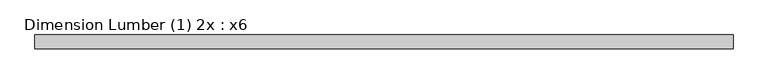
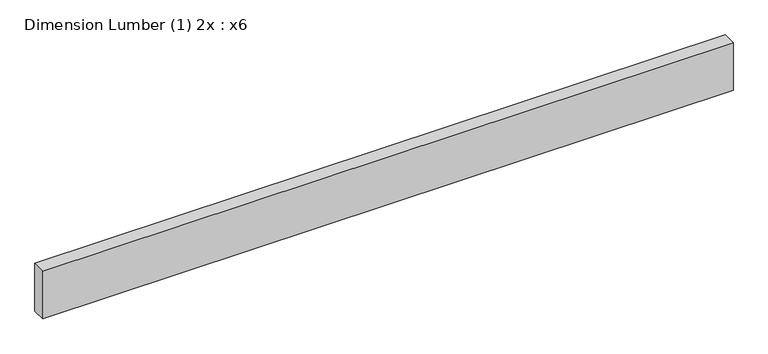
"""IFC4 building model written with IfcOpenShell, lengths in millimetres: beam geometry, Dimension Lumber (1) 2x : x6."""

from ifc_helpers import new_model, si_unit, frame, origin, place, context, project, spatial, polyline, outline, extrude, source, transform, mapped, element, save


def dimension_lumber_1_2x_x6_dd3bafa6(model_context):
    return source(origin(), model_context, "Body", "SweptSolid", [
        extrude(outline(polyline([(958.85, 19.05), (958.85, -19.05), (-958.85, -19.05), (-958.85, 19.05), (958.85, 19.05)])), frame((0.0, 0.0, -69.85), z_axis=(0.0, 0.0, 1.0), x_axis=(1.0, 0.0, 0.0)), (0.0, 0.0, 1.0), 139.7),
    ])


if __name__ == "__main__":
    model = new_model("IFC4")
    model_context = context("Model", 3, world=origin())
    ifc_project = project(units=[si_unit("LENGTHUNIT", "METRE", prefix="MILLI")], contexts=[model_context])
    site = spatial("IfcSite", under=ifc_project)
    building = spatial("IfcBuilding", under=site)
    placement = place(None, origin())
    dimension_lumber_1_2x_x6_shape = dimension_lumber_1_2x_x6_dd3bafa6(model_context)
    element("IfcBeam", 1, ObjectType="Dimension Lumber (1) 2x : x6", at=placement, inside=building, context=model_context, shape_type="MappedRepresentation", body=[
        mapped(dimension_lumber_1_2x_x6_shape, transform((0.0, 0.0, 0.0), x_axis=(1.0, 0.0, 0.0), y_axis=(0.0, 1.0, 0.0), z_axis=(0.0, 0.0, 1.0))),
    ])
    save(model, "model.ifc")
